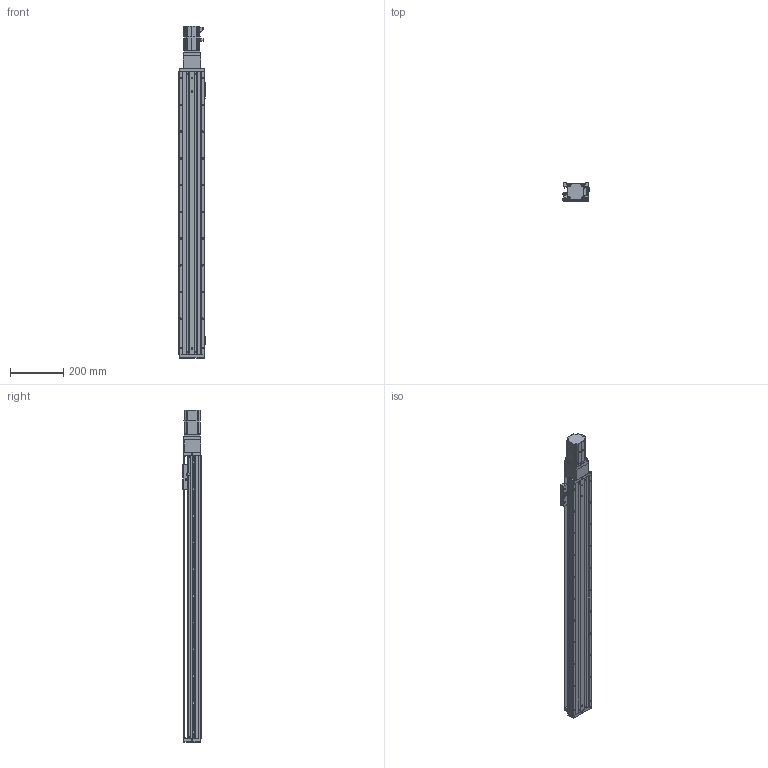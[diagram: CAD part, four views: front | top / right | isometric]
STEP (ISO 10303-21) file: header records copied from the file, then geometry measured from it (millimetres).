
FILE_DESCRIPTION (( 'STEP AP203' ), '1' );
FILE_NAME ('KTHA100-900-BC-M20-C4L.step', '2022-04-26T01:46:04', ( '微软用户' ), ( '微软中国' ), 'SwSTEP 2.0', 'SolidWorks 2020', '' );
FILE_SCHEMA (( 'CONFIG_CONTROL_DESIGN' ));
Length unit declared in the file: millimetre
Products named in the file (18): GBT70.1 M5℅16; KTHA100-900-BC-M20-C4L; GB¨uT 70.2-M3¡Á5_M3¡Á6; CTHA60-016; EE_SX911P_R; GBT 70.3-M3℅6; CTHA60-017; _X2_4E0983F1_X0_200W_1; KTHA100-001_1060; CTHA60-021; CTHA86-013; KTHA100-002; GBT77-2000 M3×3; CTHA86-027; KTHA100-004; GBT 70.1-M3℅6; CTHA86-006-1_CTHA86-006-2; KTHA100-005
Assembly tree (56 placements, depth 2):
  KTHA100-900-BC-M20-C4L
    KTHA100-001_1060
    KTHA100-002
    KTHA100-004
    KTHA100-005
    GB¨uT 70.2-M3¡Á5_M3¡Á6  x6
    EE_SX911P_R  x3
    CTHA60-017  x3
    CTHA60-021  x2
    GBT77-2000 M3×3  x6
    GBT 70.1-M3℅6  x6
    GBT70.1 M5℅16  x14
    CTHA60-016  x2
    GBT 70.3-M3℅6  x6
    _X2_4E0983F1_X0_200W_1
    CTHA86-013
    CTHA86-027
    CTHA86-006-1_CTHA86-006-2
Bounding box: 98.82 x 68 x 1242.5 mm (x, y, z)
Volume: 4594397.3 mm3; surface area: 758237.5 mm2
Topology: 59 solids, 59 shells, 2467 faces, 5912 edges, 3652 vertices
Faces by surface type: plane 1263, cylinder 679, cone 336, torus 104, bspline 69, sphere 16
Entity records: 43536 total; most frequent: CARTESIAN_POINT 8311, DIRECTION 6879, ORIENTED_EDGE 6592, EDGE_CURVE 3296, AXIS2_PLACEMENT_3D 2392, VECTOR 2095, LINE 2095, VERTEX_POINT 2070
